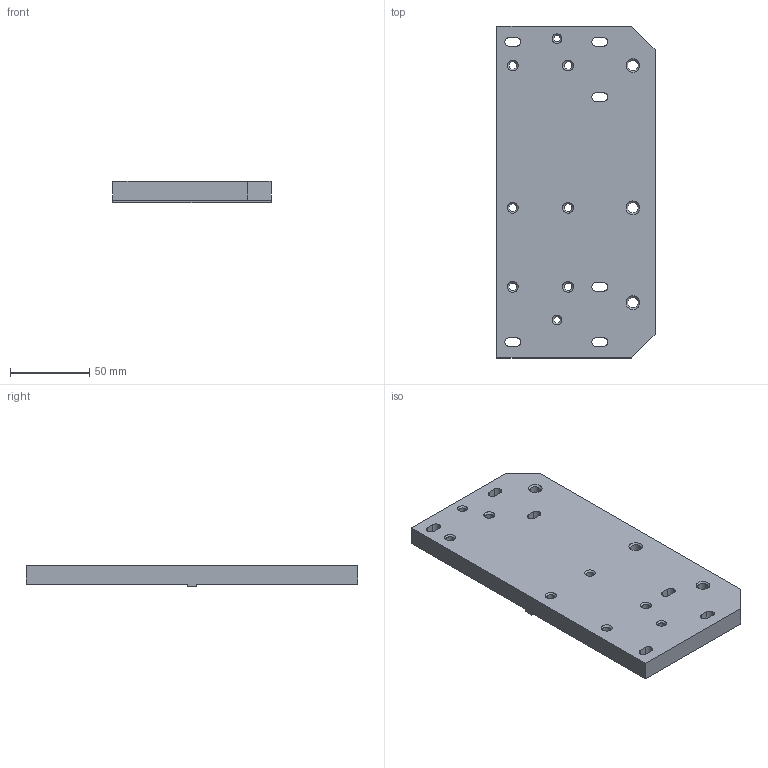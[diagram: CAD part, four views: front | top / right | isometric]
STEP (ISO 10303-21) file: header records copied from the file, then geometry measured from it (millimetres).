
FILE_DESCRIPTION(('STEP AP203'), '1');
FILE_NAME('ÒÏÏÔ1801.01.03.00.007 - Ïëîùàäêà îïîðíàÿ', '', ('UNSPECIFIED'), ('UNSPECIFIED'), 'C3D Converter', 'C3D Toolkit', '');
FILE_SCHEMA(('CONFIG_CONTROL_DESIGN'));
Length unit declared in the file: millimetre
Products named in the file (1): ТППФ1801.01.03.00.007
Bounding box: 100 x 210 x 13.5 mm (x, y, z)
Volume: 243564.3 mm3; surface area: 51909.2 mm2
Topology: 1 solids, 1 shells, 69 faces, 179 edges, 112 vertices
Faces by surface type: plane 24, cylinder 23, cone 22
Full cylindrical faces by diameter (mm): 4.134 x2, 4.917 x6, 6.647 x3
Entity records: 2600 total; most frequent: DIRECTION 354, CARTESIAN_POINT 328, ORIENTED_EDGE 292, EDGE_CURVE 146, AXIS2_PLACEMENT_3D 138, EDGE_LOOP 136, VERTEX_POINT 112, LINE 78
